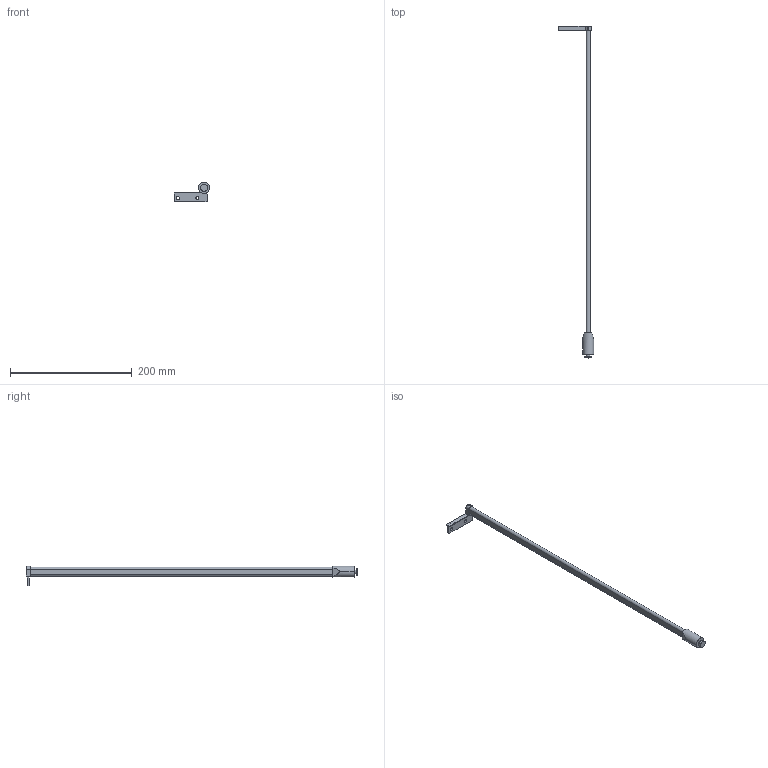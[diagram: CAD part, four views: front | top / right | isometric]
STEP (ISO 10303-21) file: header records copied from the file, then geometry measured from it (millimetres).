
FILE_DESCRIPTION (( 'STEP AP214' ), '1' );
FILE_NAME ('DWD-XP_Reling-Haengeregister_NL550_rechts.step', '2010-10-06T11:19:37', ( 'grass' ), ( '' ), 'SwSTEP 2.0', 'SolidWorks 2010', '' );
FILE_SCHEMA (( 'AUTOMOTIVE_DESIGN' ));
Length unit declared in the file: millimetre
Products named in the file (1): DWD-XP_Reling-Haengeregister_NL550_rechts
Bounding box: 58.1 x 544.3 x 32.15 mm (x, y, z)
Volume: 60047.7 mm3; surface area: 24533 mm2
Topology: 1 solids, 1 shells, 34 faces, 84 edges, 56 vertices
Faces by surface type: plane 20, cylinder 14
Entity records: 1058 total; most frequent: CARTESIAN_POINT 187, DIRECTION 178, ORIENTED_EDGE 168, EDGE_CURVE 84, AXIS2_PLACEMENT_3D 63, VERTEX_POINT 56, VECTOR 52, LINE 52
